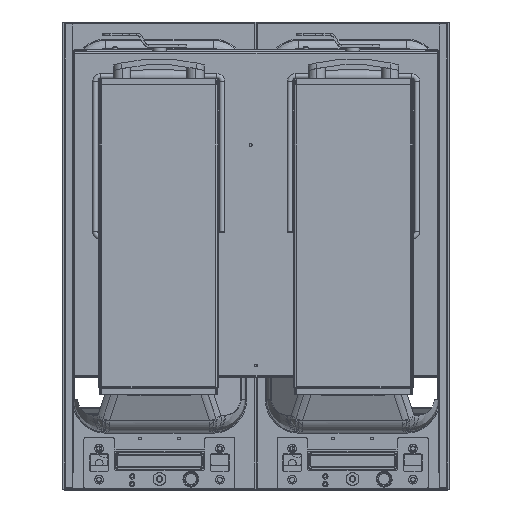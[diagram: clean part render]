
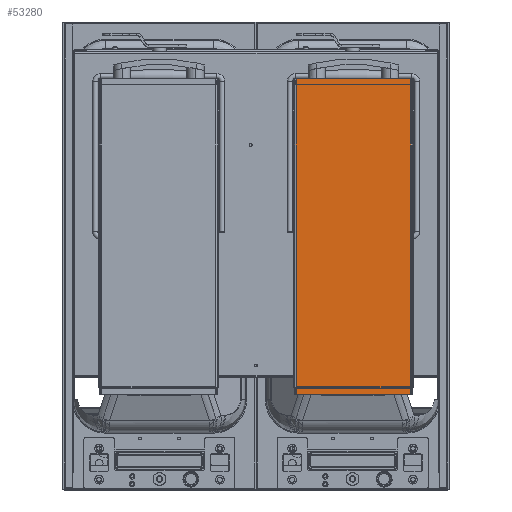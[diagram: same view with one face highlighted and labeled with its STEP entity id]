
A CAD part, front view. The second image highlights one B-rep face of the part: STEP entity #53280.
In plain terms, the highlighted planar face has unit normal (0, -1, 0).
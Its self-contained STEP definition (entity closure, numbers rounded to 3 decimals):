
#426 = LINE ( 'NONE', #52018, #7213 ) ;
#2448 = VERTEX_POINT ( 'NONE', #37757 ) ;
#2616 = DIRECTION ( 'NONE',  ( 0., 0., -1. ) ) ;
#4509 = LINE ( 'NONE', #24355, #52373 ) ;
#5201 = ORIENTED_EDGE ( 'NONE', *, *, #40489, .T. ) ;
#7213 = VECTOR ( 'NONE', #18027, 1000. ) ;
#7736 = PLANE ( 'NONE',  #40180 ) ;
#11531 = EDGE_CURVE ( 'NONE', #2448, #51438, #4509, .T. ) ;
#18027 = DIRECTION ( 'NONE',  ( -1., 0., 0. ) ) ;
#18747 = EDGE_CURVE ( 'NONE', #37129, #52716, #426, .T. ) ;
#21527 = FACE_OUTER_BOUND ( 'NONE', #63105, .T. ) ;
#24355 = CARTESIAN_POINT ( 'NONE',  ( 198.5, -729., -478.1 ) ) ;
#25682 = VECTOR ( 'NONE', #39135, 1000. ) ;
#29422 = ORIENTED_EDGE ( 'NONE', *, *, #18747, .T. ) ;
#29429 = CARTESIAN_POINT ( 'NONE',  ( 51.5, -729., -73.1 ) ) ;
#32448 = CARTESIAN_POINT ( 'NONE',  ( 51.5, -729., -478.1 ) ) ;
#36534 = DIRECTION ( 'NONE',  ( 0., 1., 0. ) ) ;
#37129 = VERTEX_POINT ( 'NONE', #50089 ) ;
#37757 = CARTESIAN_POINT ( 'NONE',  ( 198.5, -729., -478.1 ) ) ;
#38175 = LINE ( 'NONE', #44333, #25682 ) ;
#39135 = DIRECTION ( 'NONE',  ( 0., 0., 1. ) ) ;
#40180 = AXIS2_PLACEMENT_3D ( 'NONE', #60941, #36534, #2616 ) ;
#40314 = LINE ( 'NONE', #45526, #61934 ) ;
#40489 = EDGE_CURVE ( 'NONE', #2448, #37129, #38175, .T. ) ;
#44333 = CARTESIAN_POINT ( 'NONE',  ( 198.5, -729., -478.1 ) ) ;
#44552 = DIRECTION ( 'NONE',  ( -1., 0., 0. ) ) ;
#45526 = CARTESIAN_POINT ( 'NONE',  ( 51.5, -729., -478.1 ) ) ;
#49888 = ORIENTED_EDGE ( 'NONE', *, *, #11531, .F. ) ;
#50089 = CARTESIAN_POINT ( 'NONE',  ( 198.5, -729., -73.1 ) ) ;
#50674 = EDGE_CURVE ( 'NONE', #51438, #52716, #40314, .T. ) ;
#50974 = DIRECTION ( 'NONE',  ( 0., 0., 1. ) ) ;
#51438 = VERTEX_POINT ( 'NONE', #32448 ) ;
#52018 = CARTESIAN_POINT ( 'NONE',  ( 198.5, -729., -73.1 ) ) ;
#52373 = VECTOR ( 'NONE', #44552, 1000. ) ;
#52716 = VERTEX_POINT ( 'NONE', #29429 ) ;
#53280 = ADVANCED_FACE ( 'NONE', ( #21527 ), #7736, .F. ) ;
#53900 = ORIENTED_EDGE ( 'NONE', *, *, #50674, .F. ) ;
#60941 = CARTESIAN_POINT ( 'NONE',  ( 198.5, -729., -478.1 ) ) ;
#61934 = VECTOR ( 'NONE', #50974, 1000. ) ;
#63105 = EDGE_LOOP ( 'NONE', ( #29422, #53900, #49888, #5201 ) ) ;
